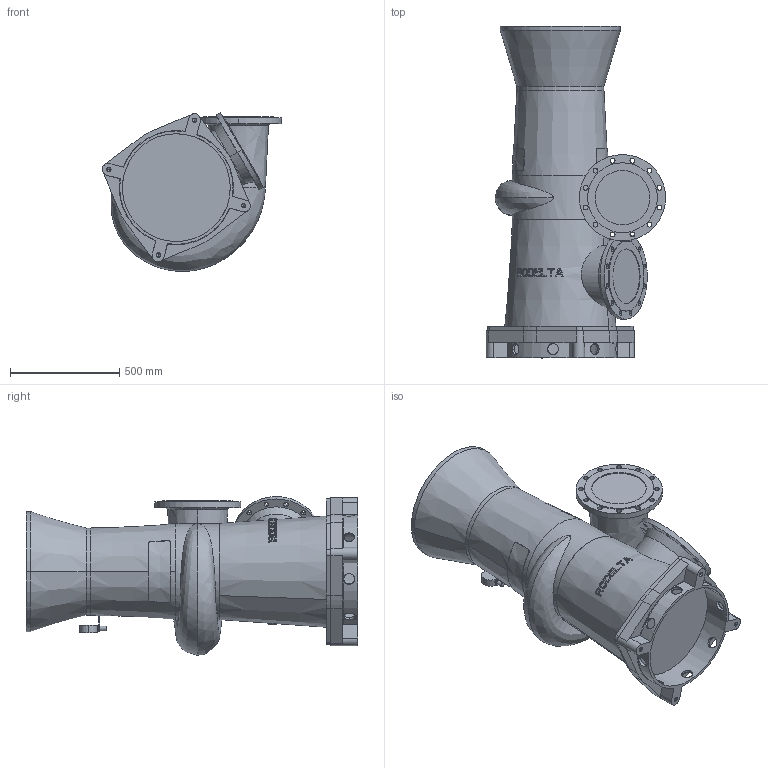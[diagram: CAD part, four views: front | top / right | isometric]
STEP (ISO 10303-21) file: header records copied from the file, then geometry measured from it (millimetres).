
FILE_DESCRIPTION((''),'2;1');
FILE_NAME('8310_VOOR_BLAD_ASM','2024-07-25T',('Lyritlocal'),(''),'PRO/ENGINEER BY PARAMETRIC TECHNOLOGY CORPORATION, 2016360','PRO/ENGINEER BY PARAMETRIC TECHNOLOGY CORPORATION, 2016360','');
FILE_SCHEMA(('CONFIG_CONTROL_DESIGN'));
Length unit declared in the file: millimetre
Products named in the file (3): 8310; 8310_VOET; 8310_VOOR_BLAD_ASM
Assembly tree (2 placements, depth 2):
  8310_VOOR_BLAD_ASM
    8310
    8310_VOET
Bounding box: 821.45 x 1521 x 728.18 mm (x, y, z)
Volume: 290401681.4 mm3; surface area: 4473475.7 mm2
Topology: 2 solids, 6 shells, 545 faces, 1466 edges, 969 vertices
Faces by surface type: plane 342, cylinder 153, cone 40, bspline 6, torus 4
Entity records: 19407 total; most frequent: CARTESIAN_POINT 6110, ORIENTED_EDGE 2900, DIRECTION 2489, EDGE_CURVE 1458, VERTEX_POINT 969, AXIS2_PLACEMENT_3D 967, EDGE_LOOP 661, VECTOR 555
